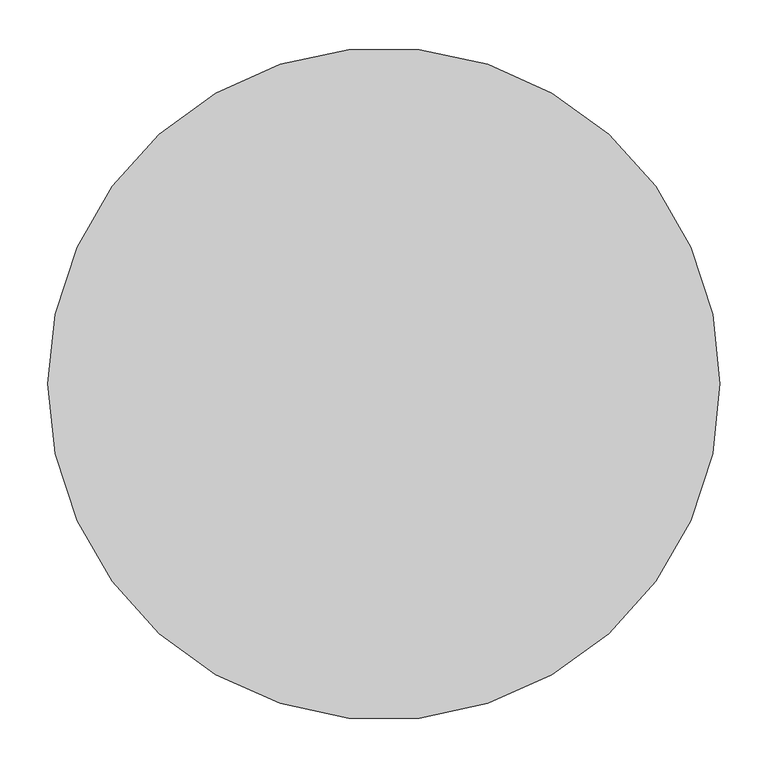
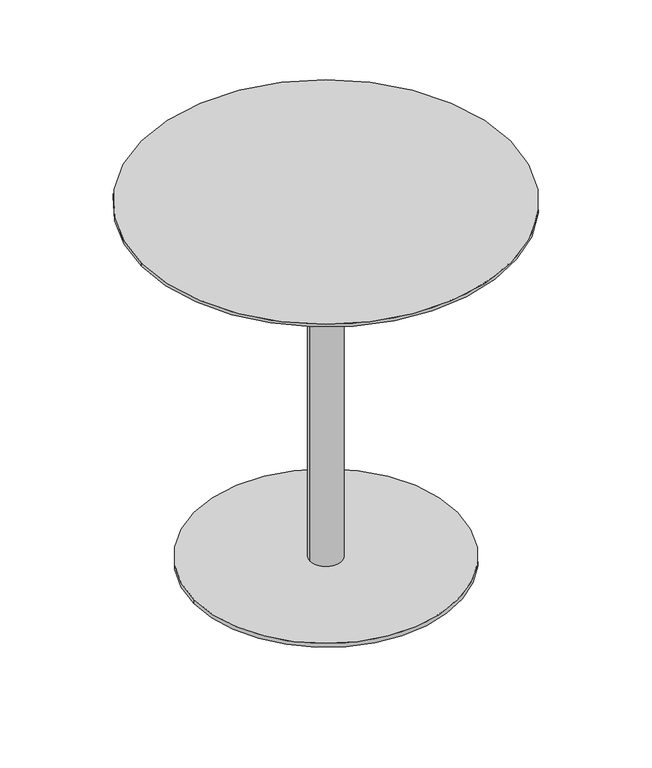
"""IFC4 building model written with IfcOpenShell, lengths in millimetres: furniture geometry, Vestre - Munch - 5132 : Vestre - Munch - 5132."""

from ifc_helpers import new_model, si_unit, point, frame, frame_2d, origin, origin_with_axes, origin_2d, place, context, project, spatial, circle_curve, trimmed, segment, composite_curve, outline, extrude, source, transform, mapped, element, save


def furniture_0c5c4a3b(model_context):
    return source(origin(), model_context, "Body", "SweptSolid", [
        extrude(outline(composite_curve([segment(trimmed(circle_curve(frame_2d((-182.7252773, -105.5634299)), 19.0), [point((-201.7252773, -105.5634299))], [point((-163.7252773, -105.5634299))], False, "CARTESIAN"), True, "CONTINUOUS"), segment(trimmed(circle_curve(frame_2d((-182.7252773, -105.5634299)), 19.0), [point((-163.7252773, -105.5634299))], [point((-201.7252773, -105.5634299))], False, "CARTESIAN"), True, "CONTINUOUS")], self_intersect=False)), origin_with_axes(), (0.0, 0.0, 1.0), 12.0),
        extrude(outline(composite_curve([segment(trimmed(circle_curve(frame_2d((182.7252773, -105.5634299)), 19.0), [point((201.7252773, -105.5634299))], [point((163.7252773, -105.5634299))], False, "CARTESIAN"), True, "CONTINUOUS"), segment(trimmed(circle_curve(frame_2d((182.7252773, -105.5634299)), 19.0), [point((163.7252773, -105.5634299))], [point((201.7252773, -105.5634299))], False, "CARTESIAN"), True, "CONTINUOUS")], self_intersect=False)), origin_with_axes(), (0.0, 0.0, 1.0), 12.0),
        extrude(outline(composite_curve([segment(trimmed(circle_curve(frame_2d((0.0, 211.0)), 19.0), [point((19.0, 211.0))], [point((-19.0, 211.0))], False, "CARTESIAN"), True, "CONTINUOUS"), segment(trimmed(circle_curve(frame_2d((0.0, 211.0)), 19.0), [point((-19.0, 211.0))], [point((19.0, 211.0))], False, "CARTESIAN"), True, "CONTINUOUS")], self_intersect=False)), origin_with_axes(), (0.0, 0.0, 1.0), 12.0),
        extrude(outline(composite_curve([segment(trimmed(circle_curve(origin_2d(), 249.962756), [point((-249.962756, 0.0))], [point((249.962756, 0.0))], False, "CARTESIAN"), True, "CONTINUOUS"), segment(trimmed(circle_curve(origin_2d(), 249.962756), [point((249.962756, 0.0))], [point((-249.962756, 0.0))], False, "CARTESIAN"), True, "CONTINUOUS")], self_intersect=False)), frame((0.0, 0.0, 12.0), z_axis=(0.0, 0.0, 1.0), x_axis=(1.0, 0.0, 0.0)), (0.0, 0.0, 1.0), 7.85),
        extrude(outline(composite_curve([segment(trimmed(circle_curve(origin_2d(), 30.15), [point((-30.15, 0.0))], [point((30.15, 0.0))], False, "CARTESIAN"), True, "CONTINUOUS"), segment(trimmed(circle_curve(origin_2d(), 30.15), [point((30.15, 0.0))], [point((-30.15, 0.0))], False, "CARTESIAN"), True, "CONTINUOUS")], self_intersect=False)), frame((0.0, 0.0, 19.85), z_axis=(0.0, 0.0, 1.0), x_axis=(1.0, 0.0, 0.0)), (0.0, 0.0, 1.0), 704.0),
        extrude(outline(composite_curve([segment(trimmed(circle_curve(origin_2d(), 350.0), [point((-350.0, 0.0))], [point((350.0, 0.0))], False, "CARTESIAN"), True, "CONTINUOUS"), segment(trimmed(circle_curve(origin_2d(), 350.0), [point((350.0, 0.0))], [point((-350.0, 0.0))], False, "CARTESIAN"), True, "CONTINUOUS")], self_intersect=False)), frame((0.0, 0.0, 723.85), z_axis=(0.0, 0.0, 1.0), x_axis=(1.0, 0.0, 0.0)), (0.0, 0.0, 1.0), 5.86),
    ])


if __name__ == "__main__":
    model = new_model("IFC4")
    model_context = context("Model", 3, world=origin())
    ifc_project = project(units=[si_unit("LENGTHUNIT", "METRE", prefix="MILLI")], contexts=[model_context])
    site = spatial("IfcSite", under=ifc_project)
    building = spatial("IfcBuilding", under=site)
    placement = place(None, origin())
    furniture_shape = furniture_0c5c4a3b(model_context)
    element("IfcFurniture", 1, ObjectType="Vestre - Munch - 5132 : Vestre - Munch - 5132", at=placement, inside=building, context=model_context, shape_type="MappedRepresentation", body=[
        mapped(furniture_shape, transform((0.0, 0.0, 0.0), x_axis=(1.0, 0.0, 0.0), y_axis=(0.0, 1.0, 0.0), z_axis=(0.0, 0.0, 1.0))),
    ])
    save(model, "model.ifc")
